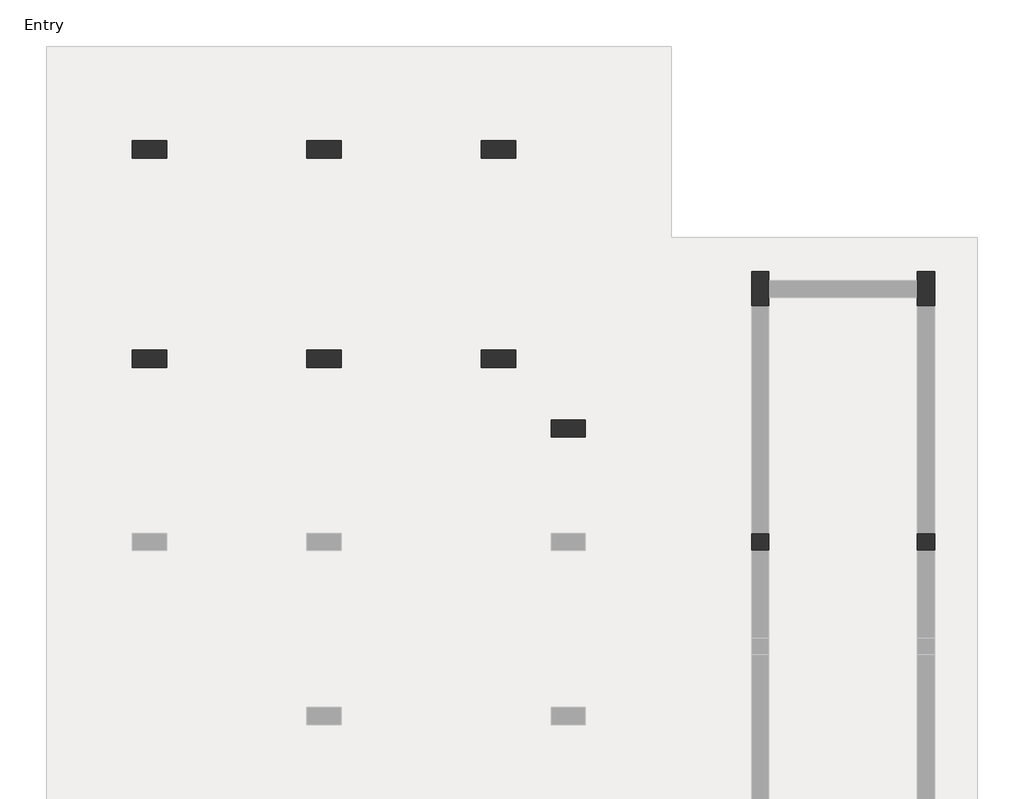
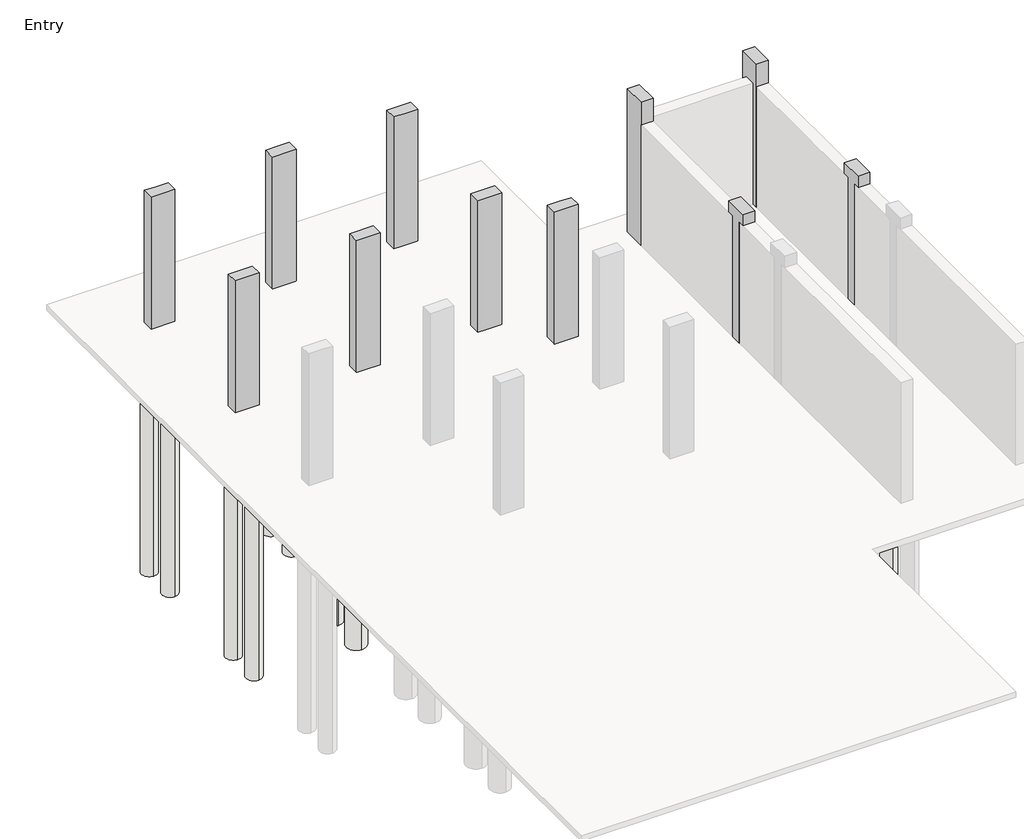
# One storey, part 3 of 3: 34 slabs, 11 columns, 4 footings.
"""IFC4 building model written with IfcOpenShell, lengths in millimetres."""

from ifc_helpers import new_model, si_unit, point, frame, frame_2d, origin, place, context, project, spatial, polyline, circle_curve, trimmed, segment, composite_curve, outline, extrude, faceted_brep, element, save

model = new_model("IFC4")

# Units and contexts
model_context = context("Model", 3, world=origin())
ifc_project = project(units=[si_unit("LENGTHUNIT", "METRE", prefix="MILLI")], contexts=[model_context])

# Site, building, storey
site = spatial("IfcSite", under=ifc_project)
building = spatial("IfcBuilding", under=site)
storey = spatial("IfcBuildingStorey", under=building, Name="Entry", Elevation=0.0)

# Columns
placement = place(None, origin())
element("IfcColumn", 1, ObjectType="M_Concrete-Rectangular-Column : 300 x 600mm", at=placement, inside=storey, context=model_context, shape_type="Brep", body=[
    faceted_brep([(-14312.7526929, 13307.19569, 0.0), (-13712.7526929, 13307.19569, 0.0), (-13712.7526929, 13007.19569, 0.0), (-14312.7526929, 13007.19569, 0.0), (-14312.7526929, 13307.19569, 3505.2), (-14012.7526929, 13307.19569, 3505.2), (-13712.7526929, 13307.19569, 3505.2), (-13712.7526929, 13307.19569, 2910.0), (-13712.7526929, 13007.19569, 3505.2), (-13712.7526929, 13007.19569, 2910.0), (-14012.7526929, 13007.19569, 3505.2), (-14162.7526929, 13007.19569, 3505.2), (-14312.7526929, 13007.19569, 3505.2)], [[[0, 1, 2, 3]], [[4, 5, 6, 7, 1, 0]], [[6, 8, 9, 2, 1, 7]], [[8, 10, 11, 12, 3, 2, 9]], [[12, 4, 0, 3]], [[4, 12, 11, 10, 8, 6, 5]]]),
])
element("IfcColumn", 2, ObjectType="M_Concrete-Rectangular-Column : 300 x 600mm", at=placement, inside=storey, context=model_context, shape_type="Brep", body=[
    faceted_brep([(-11264.7526929, 13307.19569, 0.0), (-10664.7526929, 13307.19569, 0.0), (-10664.7526929, 13007.19569, 0.0), (-11264.7526929, 13007.19569, 0.0), (-11264.7526929, 13307.19569, 3505.2), (-10964.7526929, 13307.19569, 3505.2), (-10664.7526929, 13307.19569, 3505.2), (-10664.7526929, 13307.19569, 2910.0), (-11264.7526929, 13307.19569, 2910.0), (-10664.7526929, 13007.19569, 3505.2), (-10664.7526929, 13007.19569, 2910.0), (-10814.7526929, 13007.19569, 3505.2), (-10964.7526929, 13007.19569, 3505.2), (-11264.7526929, 13007.19569, 3505.2), (-11264.7526929, 13007.19569, 2910.0)], [[[0, 1, 2, 3]], [[4, 5, 6, 7, 1, 0, 8]], [[6, 9, 10, 2, 1, 7]], [[9, 11, 12, 13, 14, 3, 2, 10]], [[13, 4, 8, 0, 3, 14]], [[4, 13, 12, 11, 9, 6, 5]]]),
])
element("IfcColumn", 3, ObjectType="M_Concrete-Rectangular-Column : 300 x 600mm", at=placement, inside=storey, context=model_context, shape_type="Brep", body=[
    faceted_brep([(-8216.7526929, 13307.19569, 0.0), (-7616.7526929, 13307.19569, 0.0), (-7616.7526929, 13007.19569, 0.0), (-8216.7526929, 13007.19569, 0.0), (-8216.7526929, 13307.19569, 3505.2), (-7916.7526929, 13307.19569, 3505.2), (-7616.7526929, 13307.19569, 3505.2), (-8216.7526929, 13307.19569, 2910.0), (-7616.7526929, 13007.19569, 3505.2), (-7766.7526929, 13007.19569, 3505.2), (-7916.7526929, 13007.19569, 3505.2), (-8216.7526929, 13007.19569, 3505.2), (-8216.7526929, 13007.19569, 2910.0)], [[[0, 1, 2, 3]], [[4, 5, 6, 1, 0, 7]], [[6, 8, 2, 1]], [[8, 9, 10, 11, 12, 3, 2]], [[11, 4, 7, 0, 3, 12]], [[4, 11, 10, 9, 8, 6, 5]]]),
])
element("IfcColumn", 4, ObjectType="M_Concrete-Rectangular-Column : 300 x 600mm", at=placement, inside=storey, context=model_context, shape_type="Brep", body=[
    faceted_brep([(-14312.7526929, 9649.59569, 0.0), (-13712.7526929, 9649.59569, 0.0), (-13712.7526929, 9349.59569, 0.0), (-14312.7526929, 9349.59569, 0.0), (-14312.7526929, 9649.59569, 3505.2), (-14162.7526929, 9649.59569, 3505.2), (-13862.7526929, 9649.59569, 3505.2), (-13712.7526929, 9649.59569, 3505.2), (-13712.7526929, 9649.59569, 2910.0), (-13712.7526929, 9349.59569, 3505.2), (-13712.7526929, 9349.59569, 2910.0), (-13862.7526929, 9349.59569, 3505.2), (-14162.7526929, 9349.59569, 3505.2), (-14312.7526929, 9349.59569, 3505.2)], [[[0, 1, 2, 3]], [[4, 5, 6, 7, 8, 1, 0]], [[7, 9, 10, 2, 1, 8]], [[9, 11, 12, 13, 3, 2, 10]], [[13, 4, 0, 3]], [[4, 13, 12, 11, 9, 7, 6, 5]]]),
])
element("IfcColumn", 5, ObjectType="M_Concrete-Rectangular-Column : 300 x 600mm", at=placement, inside=storey, context=model_context, shape_type="Brep", body=[
    faceted_brep([(-11264.7526929, 9649.59569, 0.0), (-10664.7526929, 9649.59569, 0.0), (-10664.7526929, 9349.59569, 0.0), (-11264.7526929, 9349.59569, 0.0), (-11264.7526929, 9649.59569, 3505.2), (-10664.7526929, 9649.59569, 3505.2), (-10664.7526929, 9649.59569, 2910.0), (-11264.7526929, 9649.59569, 2910.0), (-10664.7526929, 9349.59569, 3505.2), (-10664.7526929, 9349.59569, 2910.0), (-11264.7526929, 9349.59569, 3505.2), (-11264.7526929, 9349.59569, 2910.0)], [[[0, 1, 2, 3]], [[4, 5, 6, 1, 0, 7]], [[5, 8, 9, 2, 1, 6]], [[8, 10, 11, 3, 2, 9]], [[10, 4, 7, 0, 3, 11]], [[4, 10, 8, 5]]]),
])
element("IfcColumn", 6, ObjectType="M_Concrete-Rectangular-Column : 300 x 600mm", at=placement, inside=storey, context=model_context, shape_type="Brep", body=[
    faceted_brep([(-8216.7526929, 9649.59569, 0.0), (-7616.7526929, 9649.59569, 0.0), (-7616.7526929, 9349.59569, 0.0), (-8216.7526929, 9349.59569, 0.0), (-8216.7526929, 9649.59569, 3505.2), (-8066.7526929, 9649.59569, 3505.2), (-7766.7526929, 9649.59569, 3505.2), (-7616.7526929, 9649.59569, 3505.2), (-8216.7526929, 9649.59569, 2910.0), (-7616.7526929, 9349.59569, 3505.2), (-7766.7526929, 9349.59569, 3505.2), (-8066.7526929, 9349.59569, 3505.2), (-8216.7526929, 9349.59569, 3505.2), (-8216.7526929, 9349.59569, 2910.0)], [[[0, 1, 2, 3]], [[4, 5, 6, 7, 1, 0, 8]], [[7, 9, 2, 1]], [[9, 10, 11, 12, 13, 3, 2]], [[12, 4, 8, 0, 3, 13]], [[4, 12, 11, 10, 9, 7, 6, 5]]]),
])
element("IfcColumn", 7, ObjectType="M_Concrete-Rectangular-Column : 300 x 600mm", at=placement, inside=storey, context=model_context, shape_type="Brep", body=[
    faceted_brep([(-6997.5526929, 8430.39569, 0.0), (-6397.5526929, 8430.39569, 0.0), (-6397.5526929, 8130.39569, 0.0), (-6997.5526929, 8130.39569, 0.0), (-6997.5526929, 8430.39569, 3505.2), (-6697.5526929, 8430.39569, 3505.2), (-6397.5526929, 8430.39569, 3505.2), (-6997.5526929, 8430.39569, 2910.0), (-6397.5526929, 8130.39569, 3505.2), (-6547.5526929, 8130.39569, 3505.2), (-6697.5526929, 8130.39569, 3505.2), (-6997.5526929, 8130.39569, 3505.2), (-6997.5526929, 8130.39569, 2910.0)], [[[0, 1, 2, 3]], [[4, 5, 6, 1, 0, 7]], [[6, 8, 2, 1]], [[8, 9, 10, 11, 12, 3, 2]], [[11, 4, 7, 0, 3, 12]], [[4, 11, 10, 9, 8, 6, 5]]]),
])
element("IfcColumn", 8, ObjectType="M_Concrete-Rectangular-Column : 300 x 600mm", at=placement, inside=storey, context=model_context, shape_type="Brep", body=[
    faceted_brep([(-3194.7526929, 6149.19569, 0.0), (-3494.7526929, 6149.19569, 0.0), (-3494.7526929, 6449.19569, 0.0), (-3194.7526929, 6449.19569, 0.0), (-3494.7526929, 6149.19569, 2910.0), (-3494.7526929, 6149.19569, 3210.0), (-3494.7526929, 5999.19569, 3210.0), (-3494.7526929, 5999.19569, 3510.0), (-3494.7526929, 6149.19569, 3510.0), (-3494.7526929, 6449.19569, 3510.0), (-3494.7526929, 6599.19569, 3510.0), (-3494.7526929, 6599.19569, 3210.0), (-3494.7526929, 6449.19569, 3210.0), (-3494.7526929, 6449.19569, 2910.0), (-3194.7526929, 6599.19569, 3210.0), (-3194.7526929, 6599.19569, 3510.0), (-3194.7526929, 6149.19569, 3210.0), (-3194.7526929, 6149.19569, 2910.0), (-3194.7526929, 6449.19569, 2910.0), (-3194.7526929, 6449.19569, 3210.0), (-3194.7526929, 6449.19569, 3510.0), (-3194.7526929, 6149.19569, 3510.0), (-3194.7526929, 5999.19569, 3510.0), (-3194.7526929, 5999.19569, 3210.0)], [[[0, 1, 2, 3]], [[1, 4, 5, 6, 7, 8, 9, 10, 11, 12, 13, 2]], [[14, 11, 10, 15]], [[16, 17, 0, 3, 18, 19, 14, 15, 20, 21, 22, 23]], [[6, 23, 22, 7]], [[16, 5, 4, 1, 0, 17]], [[5, 16, 23, 6]], [[19, 12, 11, 14]], [[12, 19, 18, 3, 2, 13]], [[10, 9, 8, 7, 22, 21, 20, 15]]]),
])
element("IfcColumn", 9, ObjectType="M_Concrete-Rectangular-Column : 300 x 600mm", at=placement, inside=storey, context=model_context, shape_type="SweptSolid", body=[
    extrude(outline(polyline([(6449.19569, 3210.0), (6449.19569, 0.0), (6149.19569, 0.0), (6149.19569, 3210.0), (5999.19569, 3210.0), (5999.19569, 3510.0), (6599.19569, 3510.0), (6599.19569, 3210.0), (6449.19569, 3210.0)])), frame((-599.1526929, 0.0, 0.0), z_axis=(1.0, 0.0, 0.0), x_axis=(0.0, 1.0, 0.0)), (0.0, 0.0, 1.0), 300.0),
])
element("IfcColumn", 10, ObjectType="M_Concrete-Rectangular-Column : 300 x 600mm", at=placement, inside=storey, context=model_context, shape_type="Brep", body=[
    faceted_brep([(-3494.7526929, 10418.79569, 0.0), (-3494.7526929, 11018.79569, 0.0), (-3194.7526929, 11018.79569, 0.0), (-3194.7526929, 10868.79569, 0.0), (-3194.7526929, 10568.79569, 0.0), (-3194.7526929, 10418.79569, 0.0), (-3494.7526929, 10418.79569, 3810.0), (-3494.7526929, 11018.79569, 3810.0), (-3494.7526929, 10418.79569, 3210.0), (-3194.7526929, 11018.79569, 3810.0), (-3194.7526929, 10418.79569, 3810.0), (-3194.7526929, 10418.79569, 3210.0)], [[[0, 1, 2, 3, 4, 5]], [[6, 7, 1, 0, 8]], [[7, 9, 2, 1]], [[9, 10, 11, 5, 4, 3, 2]], [[10, 6, 8, 0, 5, 11]], [[6, 10, 9, 7]]]),
])
element("IfcColumn", 11, ObjectType="M_Concrete-Rectangular-Column : 300 x 600mm", at=placement, inside=storey, context=model_context, shape_type="Brep", body=[
    faceted_brep([(-599.1526929, 10418.79569, 0.0), (-599.1526929, 10568.79569, 0.0), (-599.1526929, 10868.79569, 0.0), (-599.1526929, 11018.79569, 0.0), (-299.1526929, 11018.79569, 0.0), (-299.1526929, 10418.79569, 0.0), (-599.1526929, 10418.79569, 3810.0), (-599.1526929, 11018.79569, 3810.0), (-599.1526929, 10418.79569, 3210.0), (-299.1526929, 11018.79569, 3810.0), (-299.1526929, 10418.79569, 3810.0), (-299.1526929, 10418.79569, 3210.0)], [[[0, 1, 2, 3, 4, 5]], [[6, 7, 3, 2, 1, 0, 8]], [[7, 9, 4, 3]], [[9, 10, 11, 5, 4]], [[10, 6, 8, 0, 5, 11]], [[6, 10, 9, 7]]]),
])

# Footings
element("IfcFooting", 12, ObjectType="Bearing Footing - 900 x 300", at=placement, inside=storey, context=model_context, shape_type="Brep", body=[
    faceted_brep([(-3194.7526929, 11168.79569, -300.0), (-3194.7526929, 11118.79569, -300.0), (-3194.7526929, 11118.79569, -150.0), (-3194.7526929, 11168.79569, -150.0), (-3194.7526929, 10318.79569, -300.0), (-3194.7526929, 10268.79569, -300.0), (-3194.7526929, 10268.79569, -150.0), (-3194.7526929, 10318.79569, -150.0), (-599.1526929, 11118.79569, -300.0), (-599.1526929, 11168.79569, -300.0), (-599.1526929, 11168.79569, -150.0), (-599.1526929, 11118.79569, -150.0), (-599.1526929, 10268.79569, -300.0), (-599.1526929, 10318.79569, -300.0), (-599.1526929, 10318.79569, -150.0), (-599.1526929, 10268.79569, -150.0), (-1199.1526929, 11118.79569, -300.0), (-1199.1526929, 10318.79569, -300.0), (-899.1526929, 10268.79569, -300.0), (-2894.7526929, 10268.79569, -300.0), (-2594.7526929, 10318.79569, -300.0), (-2594.7526929, 11118.79569, -300.0), (-899.1526929, 10268.79569, -150.0), (-2894.7526929, 10268.79569, -150.0), (-2594.7526929, 10318.79569, -150.0), (-2594.7526929, 11118.79569, -150.0), (-1199.1526929, 10318.79569, -150.0), (-1199.1526929, 11118.79569, -150.0)], [[[0, 1, 2, 3]], [[4, 5, 6, 7]], [[8, 9, 10, 11]], [[12, 13, 14, 15]], [[9, 0, 3, 10]], [[0, 9, 8, 16, 17, 13, 12, 18, 19, 5, 4, 20, 21, 1]], [[5, 19, 18, 12, 15, 22, 23, 6]], [[20, 4, 7, 24]], [[21, 20, 24, 25]], [[1, 21, 25, 2]], [[13, 17, 26, 14]], [[16, 8, 11, 27]], [[17, 16, 27, 26]], [[3, 2, 25, 24, 7, 6, 23, 22, 15, 14, 26, 27, 11, 10]]]),
])
element("IfcFooting", 13, ObjectType="Bearing Footing - 900 x 300", at=placement, inside=storey, context=model_context, shape_type="SweptSolid", body=[
    extrude(outline(polyline([(-3794.7526929, 6449.19569), (-3794.7526929, 10318.79569), (-3194.7526929, 10318.79569), (-3194.7526929, 10268.79569), (-2894.7526929, 10268.79569), (-2894.7526929, 6449.19569), (-2944.7526929, 6449.19569), (-2944.7526929, 7049.19569), (-3744.7526929, 7049.19569), (-3744.7526929, 6449.19569), (-3794.7526929, 6449.19569)])), frame((0.0, 0.0, -300.0), z_axis=(0.0, 0.0, 1.0), x_axis=(1.0, 0.0, 0.0)), (0.0, 0.0, 1.0), 150.0),
])
element("IfcFooting", 14, ObjectType="Bearing Footing - 900 x 300", at=placement, inside=storey, context=model_context, shape_type="SweptSolid", body=[
    extrude(outline(polyline([(0.8473071, 6149.19569), (0.8473071, 4620.39569), (-49.1526929, 4620.39569), (-49.1526929, 5220.39569), (-849.1526929, 5220.39569), (-849.1526929, 4620.39569), (-899.1526929, 4620.39569), (-899.1526929, 6149.19569), (-849.1526929, 6149.19569), (-849.1526929, 5549.19569), (-49.1526929, 5549.19569), (-49.1526929, 6149.19569), (0.8473071, 6149.19569)])), frame((0.0, 0.0, -300.0), z_axis=(0.0, 0.0, 1.0), x_axis=(1.0, 0.0, 0.0)), (0.0, 0.0, 1.0), 150.0),
])
element("IfcFooting", 15, ObjectType="Bearing Footing - 900 x 300", at=placement, inside=storey, context=model_context, shape_type="SweptSolid", body=[
    extrude(outline(polyline([(0.8473071, 10318.79569), (0.8473071, 6449.19569), (-49.1526929, 6449.19569), (-49.1526929, 7049.19569), (-849.1526929, 7049.19569), (-849.1526929, 6449.19569), (-899.1526929, 6449.19569), (-899.1526929, 10268.79569), (-599.1526929, 10268.79569), (-599.1526929, 10318.79569), (0.8473071, 10318.79569)])), frame((0.0, 0.0, -300.0), z_axis=(0.0, 0.0, 1.0), x_axis=(1.0, 0.0, 0.0)), (0.0, 0.0, 1.0), 150.0),
])

# Slabs
element("IfcSlab", 16, ObjectType="M_Pile Cap-2 Pile : 800 x 1500 x 900mm", at=placement, inside=storey, context=model_context, shape_type="SweptSolid", body=[
    extrude(outline(polyline([(-14412.7526929, 13907.19569), (-13612.7526929, 13907.19569), (-13612.7526929, 12407.19569), (-14412.7526929, 12407.19569), (-14412.7526929, 13907.19569)])), frame((0.0, 0.0, -900.0), z_axis=(0.0, 0.0, 1.0), x_axis=(1.0, 0.0, 0.0)), (0.0, 0.0, 1.0), 750.0),
])
element("IfcSlab", 17, ObjectType="M_Pile Cap-2 Pile : 800 x 1500 x 900mm", at=placement, inside=storey, context=model_context, shape_type="SweptSolid", body=[
    extrude(outline(polyline([(-11364.7526929, 13907.19569), (-10564.7526929, 13907.19569), (-10564.7526929, 12407.19569), (-11364.7526929, 12407.19569), (-11364.7526929, 13907.19569)])), frame((0.0, 0.0, -900.0), z_axis=(0.0, 0.0, 1.0), x_axis=(1.0, 0.0, 0.0)), (0.0, 0.0, 1.0), 750.0),
])
element("IfcSlab", 18, ObjectType="M_Pile Cap-2 Pile : 800 x 1500 x 900mm", at=placement, inside=storey, context=model_context, shape_type="SweptSolid", body=[
    extrude(outline(polyline([(-8316.7526929, 13907.19569), (-7516.7526929, 13907.19569), (-7516.7526929, 12407.19569), (-8316.7526929, 12407.19569), (-8316.7526929, 13907.19569)])), frame((0.0, 0.0, -900.0), z_axis=(0.0, 0.0, 1.0), x_axis=(1.0, 0.0, 0.0)), (0.0, 0.0, 1.0), 750.0),
])
element("IfcSlab", 19, ObjectType="M_Pile Cap-2 Pile : 800 x 1500 x 900mm", at=placement, inside=storey, context=model_context, shape_type="SweptSolid", body=[
    extrude(outline(polyline([(-14412.7526929, 10249.59569), (-13612.7526929, 10249.59569), (-13612.7526929, 8749.59569), (-14412.7526929, 8749.59569), (-14412.7526929, 10249.59569)])), frame((0.0, 0.0, -900.0), z_axis=(0.0, 0.0, 1.0), x_axis=(1.0, 0.0, 0.0)), (0.0, 0.0, 1.0), 750.0),
])
element("IfcSlab", 20, ObjectType="M_Pile Cap-2 Pile : 800 x 1500 x 900mm", at=placement, inside=storey, context=model_context, shape_type="SweptSolid", body=[
    extrude(outline(polyline([(-8316.7526929, 10249.59569), (-7516.7526929, 10249.59569), (-7516.7526929, 8749.59569), (-8316.7526929, 8749.59569), (-8316.7526929, 10249.59569)])), frame((0.0, 0.0, -900.0), z_axis=(0.0, 0.0, 1.0), x_axis=(1.0, 0.0, 0.0)), (0.0, 0.0, 1.0), 750.0),
])
element("IfcSlab", 21, ObjectType="M_Pile Cap-2 Pile : 800 x 1500 x 900mm", at=placement, inside=storey, context=model_context, shape_type="Brep", body=[
    faceted_brep([(-4094.7526929, 10318.79569, -900.0), (-4094.7526929, 11118.79569, -900.0), (-2594.7526929, 11118.79569, -900.0), (-2594.7526929, 10318.79569, -900.0), (-2594.7526929, 10318.79569, -300.0), (-2594.7526929, 10318.79569, -150.0), (-3194.7526929, 10318.79569, -150.0), (-3794.7526929, 10318.79569, -150.0), (-4094.7526929, 10318.79569, -150.0), (-2594.7526929, 11118.79569, -300.0), (-2594.7526929, 11118.79569, -150.0), (-4094.7526929, 11118.79569, -150.0), (-3194.7526929, 11118.79569, -150.0)], [[[0, 1, 2, 3]], [[0, 3, 4, 5, 6, 7, 8]], [[3, 2, 9, 10, 5, 4]], [[2, 1, 11, 12, 10, 9]], [[1, 0, 8, 11]], [[8, 7, 6, 5, 10, 12, 11]]]),
])
element("IfcSlab", 22, ObjectType="M_Pile Cap-2 Pile : 800 x 1500 x 900mm", at=placement, inside=storey, context=model_context, shape_type="Brep", body=[
    faceted_brep([(-1199.1526929, 10318.79569, -900.0), (-1199.1526929, 11118.79569, -900.0), (300.8473071, 11118.79569, -900.0), (300.8473071, 10318.79569, -900.0), (300.8473071, 10318.79569, -150.0), (0.8473071, 10318.79569, -150.0), (-599.1526929, 10318.79569, -150.0), (-1199.1526929, 10318.79569, -150.0), (-1199.1526929, 10318.79569, -300.0), (300.8473071, 11118.79569, -150.0), (-1199.1526929, 11118.79569, -300.0), (-1199.1526929, 11118.79569, -150.0), (-599.1526929, 11118.79569, -150.0)], [[[0, 1, 2, 3]], [[0, 3, 4, 5, 6, 7, 8]], [[3, 2, 9, 4]], [[2, 1, 10, 11, 12, 9]], [[1, 0, 8, 7, 11, 10]], [[7, 6, 5, 4, 9, 12, 11]]]),
])
element("IfcSlab", 23, ObjectType="M_Pile Cap-2 Pile : 800 x 1500 x 900mm", at=placement, inside=storey, context=model_context, shape_type="Brep", body=[
    faceted_brep([(-3744.7526929, 7049.19569, -900.0), (-2944.7526929, 7049.19569, -900.0), (-2944.7526929, 5549.19569, -900.0), (-3744.7526929, 5549.19569, -900.0), (-3744.7526929, 5549.19569, -300.0), (-3744.7526929, 5549.19569, -150.0), (-3744.7526929, 6149.19569, -150.0), (-3744.7526929, 6449.19569, -150.0), (-3744.7526929, 7049.19569, -150.0), (-3744.7526929, 7049.19569, -300.0), (-2944.7526929, 5549.19569, -300.0), (-2944.7526929, 5549.19569, -150.0), (-2944.7526929, 7049.19569, -300.0), (-2944.7526929, 7049.19569, -150.0), (-2944.7526929, 6449.19569, -150.0), (-2944.7526929, 6149.19569, -150.0)], [[[0, 1, 2, 3]], [[0, 3, 4, 5, 6, 7, 8, 9]], [[3, 2, 10, 11, 5, 4]], [[2, 1, 12, 13, 14, 15, 11, 10]], [[1, 0, 9, 8, 13, 12]], [[8, 7, 6, 5, 11, 15, 14, 13]]]),
])
element("IfcSlab", 24, ObjectType="M_Pile Cap-2 Pile : 800 x 1500 x 900mm", at=placement, inside=storey, context=model_context, shape_type="Brep", body=[
    faceted_brep([(-849.1526929, 7049.19569, -900.0), (-49.1526929, 7049.19569, -900.0), (-49.1526929, 5549.19569, -900.0), (-849.1526929, 5549.19569, -900.0), (-849.1526929, 5549.19569, -300.0), (-849.1526929, 5549.19569, -150.0), (-849.1526929, 6149.19569, -150.0), (-849.1526929, 6449.19569, -150.0), (-849.1526929, 7049.19569, -150.0), (-849.1526929, 7049.19569, -300.0), (-49.1526929, 5549.19569, -300.0), (-49.1526929, 5549.19569, -150.0), (-49.1526929, 7049.19569, -300.0), (-49.1526929, 7049.19569, -150.0), (-49.1526929, 6449.19569, -150.0), (-49.1526929, 6149.19569, -150.0)], [[[0, 1, 2, 3]], [[0, 3, 4, 5, 6, 7, 8, 9]], [[3, 2, 10, 11, 5, 4]], [[2, 1, 12, 13, 14, 15, 11, 10]], [[1, 0, 9, 8, 13, 12]], [[8, 7, 6, 5, 11, 15, 14, 13]]]),
])
element("IfcSlab", 25, ObjectType="M_Pile Cap-2 Pile : 800 x 1500 x 900mm", at=placement, inside=storey, context=model_context, shape_type="SweptSolid", body=[
    extrude(outline(polyline([(-7097.5526929, 9030.39569), (-6297.5526929, 9030.39569), (-6297.5526929, 7530.39569), (-7097.5526929, 7530.39569), (-7097.5526929, 9030.39569)])), frame((0.0, 0.0, -900.0), z_axis=(0.0, 0.0, 1.0), x_axis=(1.0, 0.0, 0.0)), (0.0, 0.0, 1.0), 750.0),
])
element("IfcSlab", 26, ObjectType="M_Pile Cap-4 Pile : 1800 x 1800 x 900mm", at=placement, inside=storey, context=model_context, shape_type="SweptSolid", body=[
    extrude(outline(polyline([(-11864.7526929, 10399.59569), (-10064.7526929, 10399.59569), (-10064.7526929, 8599.59569), (-11864.7526929, 8599.59569), (-11864.7526929, 10399.59569)])), frame((0.0, 0.0, -900.0), z_axis=(0.0, 0.0, 1.0), x_axis=(1.0, 0.0, 0.0)), (0.0, 0.0, 1.0), 750.0),
])
element("IfcSlab", 27, ObjectType="M_Pile-Steel Pipe : 400mm Diameter", at=placement, inside=storey, context=model_context, shape_type="SweptSolid", body=[
    extrude(outline(composite_curve([segment(trimmed(circle_curve(frame_2d((-14012.7526929, 12707.19569)), 200.0), [point((-14012.7526929, 12507.19569))], [point((-14012.7526929, 12907.19569))], False, "CARTESIAN"), True, "CONTINUOUS"), segment(trimmed(circle_curve(frame_2d((-14012.7526929, 12707.19569)), 200.0), [point((-14012.7526929, 12907.19569))], [point((-14012.7526929, 12507.19569))], False, "CARTESIAN"), True, "CONTINUOUS")], self_intersect=False)), frame((0.0, 0.0, -6900.0), z_axis=(0.0, 0.0, 1.0), x_axis=(1.0, 0.0, 0.0)), (0.0, 0.0, 1.0), 6000.0),
])
element("IfcSlab", 28, ObjectType="M_Pile-Steel Pipe : 400mm Diameter", at=placement, inside=storey, context=model_context, shape_type="SweptSolid", body=[
    extrude(outline(composite_curve([segment(trimmed(circle_curve(frame_2d((-14012.7526929, 13607.19569)), 200.0), [point((-14012.7526929, 13407.19569))], [point((-14012.7526929, 13807.19569))], False, "CARTESIAN"), True, "CONTINUOUS"), segment(trimmed(circle_curve(frame_2d((-14012.7526929, 13607.19569)), 200.0), [point((-14012.7526929, 13807.19569))], [point((-14012.7526929, 13407.19569))], False, "CARTESIAN"), True, "CONTINUOUS")], self_intersect=False)), frame((0.0, 0.0, -6900.0), z_axis=(0.0, 0.0, 1.0), x_axis=(1.0, 0.0, 0.0)), (0.0, 0.0, 1.0), 6000.0),
])
element("IfcSlab", 29, ObjectType="M_Pile-Steel Pipe : 400mm Diameter", at=placement, inside=storey, context=model_context, shape_type="SweptSolid", body=[
    extrude(outline(composite_curve([segment(trimmed(circle_curve(frame_2d((-10964.7526929, 12707.19569)), 200.0), [point((-10964.7526929, 12507.19569))], [point((-10964.7526929, 12907.19569))], False, "CARTESIAN"), True, "CONTINUOUS"), segment(trimmed(circle_curve(frame_2d((-10964.7526929, 12707.19569)), 200.0), [point((-10964.7526929, 12907.19569))], [point((-10964.7526929, 12507.19569))], False, "CARTESIAN"), True, "CONTINUOUS")], self_intersect=False)), frame((0.0, 0.0, -6900.0), z_axis=(0.0, 0.0, 1.0), x_axis=(1.0, 0.0, 0.0)), (0.0, 0.0, 1.0), 6000.0),
])
element("IfcSlab", 30, ObjectType="M_Pile-Steel Pipe : 400mm Diameter", at=placement, inside=storey, context=model_context, shape_type="SweptSolid", body=[
    extrude(outline(composite_curve([segment(trimmed(circle_curve(frame_2d((-10964.7526929, 13607.19569)), 200.0), [point((-10964.7526929, 13407.19569))], [point((-10964.7526929, 13807.19569))], False, "CARTESIAN"), True, "CONTINUOUS"), segment(trimmed(circle_curve(frame_2d((-10964.7526929, 13607.19569)), 200.0), [point((-10964.7526929, 13807.19569))], [point((-10964.7526929, 13407.19569))], False, "CARTESIAN"), True, "CONTINUOUS")], self_intersect=False)), frame((0.0, 0.0, -6900.0), z_axis=(0.0, 0.0, 1.0), x_axis=(1.0, 0.0, 0.0)), (0.0, 0.0, 1.0), 6000.0),
])
element("IfcSlab", 31, ObjectType="M_Pile-Steel Pipe : 400mm Diameter", at=placement, inside=storey, context=model_context, shape_type="SweptSolid", body=[
    extrude(outline(composite_curve([segment(trimmed(circle_curve(frame_2d((-7916.7526929, 12707.19569)), 200.0), [point((-7916.7526929, 12507.19569))], [point((-7916.7526929, 12907.19569))], False, "CARTESIAN"), True, "CONTINUOUS"), segment(trimmed(circle_curve(frame_2d((-7916.7526929, 12707.19569)), 200.0), [point((-7916.7526929, 12907.19569))], [point((-7916.7526929, 12507.19569))], False, "CARTESIAN"), True, "CONTINUOUS")], self_intersect=False)), frame((0.0, 0.0, -6900.0), z_axis=(0.0, 0.0, 1.0), x_axis=(1.0, 0.0, 0.0)), (0.0, 0.0, 1.0), 6000.0),
])
element("IfcSlab", 32, ObjectType="M_Pile-Steel Pipe : 400mm Diameter", at=placement, inside=storey, context=model_context, shape_type="SweptSolid", body=[
    extrude(outline(composite_curve([segment(trimmed(circle_curve(frame_2d((-7916.7526929, 13607.19569)), 200.0), [point((-7916.7526929, 13407.19569))], [point((-7916.7526929, 13807.19569))], False, "CARTESIAN"), True, "CONTINUOUS"), segment(trimmed(circle_curve(frame_2d((-7916.7526929, 13607.19569)), 200.0), [point((-7916.7526929, 13807.19569))], [point((-7916.7526929, 13407.19569))], False, "CARTESIAN"), True, "CONTINUOUS")], self_intersect=False)), frame((0.0, 0.0, -6900.0), z_axis=(0.0, 0.0, 1.0), x_axis=(1.0, 0.0, 0.0)), (0.0, 0.0, 1.0), 6000.0),
])
element("IfcSlab", 33, ObjectType="M_Pile-Steel Pipe : 400mm Diameter", at=placement, inside=storey, context=model_context, shape_type="SweptSolid", body=[
    extrude(outline(composite_curve([segment(trimmed(circle_curve(frame_2d((-14012.7526929, 9049.59569)), 200.0), [point((-14012.7526929, 8849.59569))], [point((-14012.7526929, 9249.59569))], False, "CARTESIAN"), True, "CONTINUOUS"), segment(trimmed(circle_curve(frame_2d((-14012.7526929, 9049.59569)), 200.0), [point((-14012.7526929, 9249.59569))], [point((-14012.7526929, 8849.59569))], False, "CARTESIAN"), True, "CONTINUOUS")], self_intersect=False)), frame((0.0, 0.0, -6900.0), z_axis=(0.0, 0.0, 1.0), x_axis=(1.0, 0.0, 0.0)), (0.0, 0.0, 1.0), 6000.0),
])
element("IfcSlab", 34, ObjectType="M_Pile-Steel Pipe : 400mm Diameter", at=placement, inside=storey, context=model_context, shape_type="SweptSolid", body=[
    extrude(outline(composite_curve([segment(trimmed(circle_curve(frame_2d((-14012.7526929, 9949.59569)), 200.0), [point((-14012.7526929, 9749.59569))], [point((-14012.7526929, 10149.59569))], False, "CARTESIAN"), True, "CONTINUOUS"), segment(trimmed(circle_curve(frame_2d((-14012.7526929, 9949.59569)), 200.0), [point((-14012.7526929, 10149.59569))], [point((-14012.7526929, 9749.59569))], False, "CARTESIAN"), True, "CONTINUOUS")], self_intersect=False)), frame((0.0, 0.0, -6900.0), z_axis=(0.0, 0.0, 1.0), x_axis=(1.0, 0.0, 0.0)), (0.0, 0.0, 1.0), 6000.0),
])
element("IfcSlab", 35, ObjectType="M_Pile-Steel Pipe : 400mm Diameter", at=placement, inside=storey, context=model_context, shape_type="SweptSolid", body=[
    extrude(outline(composite_curve([segment(trimmed(circle_curve(frame_2d((-7916.7526929, 9049.59569)), 200.0), [point((-7916.7526929, 8849.59569))], [point((-7916.7526929, 9249.59569))], False, "CARTESIAN"), True, "CONTINUOUS"), segment(trimmed(circle_curve(frame_2d((-7916.7526929, 9049.59569)), 200.0), [point((-7916.7526929, 9249.59569))], [point((-7916.7526929, 8849.59569))], False, "CARTESIAN"), True, "CONTINUOUS")], self_intersect=False)), frame((0.0, 0.0, -6900.0), z_axis=(0.0, 0.0, 1.0), x_axis=(1.0, 0.0, 0.0)), (0.0, 0.0, 1.0), 6000.0),
])
element("IfcSlab", 36, ObjectType="M_Pile-Steel Pipe : 400mm Diameter", at=placement, inside=storey, context=model_context, shape_type="SweptSolid", body=[
    extrude(outline(composite_curve([segment(trimmed(circle_curve(frame_2d((-7916.7526929, 9949.59569)), 200.0), [point((-7916.7526929, 9749.59569))], [point((-7916.7526929, 10149.59569))], False, "CARTESIAN"), True, "CONTINUOUS"), segment(trimmed(circle_curve(frame_2d((-7916.7526929, 9949.59569)), 200.0), [point((-7916.7526929, 10149.59569))], [point((-7916.7526929, 9749.59569))], False, "CARTESIAN"), True, "CONTINUOUS")], self_intersect=False)), frame((0.0, 0.0, -6900.0), z_axis=(0.0, 0.0, 1.0), x_axis=(1.0, 0.0, 0.0)), (0.0, 0.0, 1.0), 6000.0),
])
element("IfcSlab", 37, ObjectType="M_Pile-Steel Pipe : 400mm Diameter", at=placement, inside=storey, context=model_context, shape_type="SweptSolid", body=[
    extrude(outline(composite_curve([segment(trimmed(circle_curve(frame_2d((-2894.7526929, 10718.79569)), 200.0), [point((-2694.7526929, 10718.79569))], [point((-3094.7526929, 10718.79569))], False, "CARTESIAN"), True, "CONTINUOUS"), segment(trimmed(circle_curve(frame_2d((-2894.7526929, 10718.79569)), 200.0), [point((-3094.7526929, 10718.79569))], [point((-2694.7526929, 10718.79569))], False, "CARTESIAN"), True, "CONTINUOUS")], self_intersect=False)), frame((0.0, 0.0, -6900.0), z_axis=(0.0, 0.0, 1.0), x_axis=(1.0, 0.0, 0.0)), (0.0, 0.0, 1.0), 6000.0),
])
element("IfcSlab", 38, ObjectType="M_Pile-Steel Pipe : 400mm Diameter", at=placement, inside=storey, context=model_context, shape_type="SweptSolid", body=[
    extrude(outline(composite_curve([segment(trimmed(circle_curve(frame_2d((-3794.7526929, 10718.79569)), 200.0), [point((-3594.7526929, 10718.79569))], [point((-3994.7526929, 10718.79569))], False, "CARTESIAN"), True, "CONTINUOUS"), segment(trimmed(circle_curve(frame_2d((-3794.7526929, 10718.79569)), 200.0), [point((-3994.7526929, 10718.79569))], [point((-3594.7526929, 10718.79569))], False, "CARTESIAN"), True, "CONTINUOUS")], self_intersect=False)), frame((0.0, 0.0, -6900.0), z_axis=(0.0, 0.0, 1.0), x_axis=(1.0, 0.0, 0.0)), (0.0, 0.0, 1.0), 6000.0),
])
element("IfcSlab", 39, ObjectType="M_Pile-Steel Pipe : 400mm Diameter", at=placement, inside=storey, context=model_context, shape_type="SweptSolid", body=[
    extrude(outline(composite_curve([segment(trimmed(circle_curve(frame_2d((0.8473071, 10718.79569)), 200.0), [point((200.8473071, 10718.79569))], [point((-199.1526929, 10718.79569))], False, "CARTESIAN"), True, "CONTINUOUS"), segment(trimmed(circle_curve(frame_2d((0.8473071, 10718.79569)), 200.0), [point((-199.1526929, 10718.79569))], [point((200.8473071, 10718.79569))], False, "CARTESIAN"), True, "CONTINUOUS")], self_intersect=False)), frame((0.0, 0.0, -6900.0), z_axis=(0.0, 0.0, 1.0), x_axis=(1.0, 0.0, 0.0)), (0.0, 0.0, 1.0), 6000.0),
])
element("IfcSlab", 40, ObjectType="M_Pile-Steel Pipe : 400mm Diameter", at=placement, inside=storey, context=model_context, shape_type="SweptSolid", body=[
    extrude(outline(composite_curve([segment(trimmed(circle_curve(frame_2d((-899.1526929, 10718.79569)), 200.0), [point((-699.1526929, 10718.79569))], [point((-1099.1526929, 10718.79569))], False, "CARTESIAN"), True, "CONTINUOUS"), segment(trimmed(circle_curve(frame_2d((-899.1526929, 10718.79569)), 200.0), [point((-1099.1526929, 10718.79569))], [point((-699.1526929, 10718.79569))], False, "CARTESIAN"), True, "CONTINUOUS")], self_intersect=False)), frame((0.0, 0.0, -6900.0), z_axis=(0.0, 0.0, 1.0), x_axis=(1.0, 0.0, 0.0)), (0.0, 0.0, 1.0), 6000.0),
])
element("IfcSlab", 41, ObjectType="M_Pile-Steel Pipe : 400mm Diameter", at=placement, inside=storey, context=model_context, shape_type="SweptSolid", body=[
    extrude(outline(composite_curve([segment(trimmed(circle_curve(frame_2d((-3344.7526929, 6749.19569)), 200.0), [point((-3344.7526929, 6549.19569))], [point((-3344.7526929, 6949.19569))], False, "CARTESIAN"), True, "CONTINUOUS"), segment(trimmed(circle_curve(frame_2d((-3344.7526929, 6749.19569)), 200.0), [point((-3344.7526929, 6949.19569))], [point((-3344.7526929, 6549.19569))], False, "CARTESIAN"), True, "CONTINUOUS")], self_intersect=False)), frame((0.0, 0.0, -6900.0), z_axis=(0.0, 0.0, 1.0), x_axis=(1.0, 0.0, 0.0)), (0.0, 0.0, 1.0), 6000.0),
])
element("IfcSlab", 42, ObjectType="M_Pile-Steel Pipe : 400mm Diameter", at=placement, inside=storey, context=model_context, shape_type="SweptSolid", body=[
    extrude(outline(composite_curve([segment(trimmed(circle_curve(frame_2d((-449.1526929, 5849.19569)), 200.0), [point((-449.1526929, 5649.19569))], [point((-449.1526929, 6049.19569))], False, "CARTESIAN"), True, "CONTINUOUS"), segment(trimmed(circle_curve(frame_2d((-449.1526929, 5849.19569)), 200.0), [point((-449.1526929, 6049.19569))], [point((-449.1526929, 5649.19569))], False, "CARTESIAN"), True, "CONTINUOUS")], self_intersect=False)), frame((0.0, 0.0, -6900.0), z_axis=(0.0, 0.0, 1.0), x_axis=(1.0, 0.0, 0.0)), (0.0, 0.0, 1.0), 6000.0),
])
element("IfcSlab", 43, ObjectType="M_Pile-Steel Pipe : 400mm Diameter", at=placement, inside=storey, context=model_context, shape_type="SweptSolid", body=[
    extrude(outline(composite_curve([segment(trimmed(circle_curve(frame_2d((-449.1526929, 6749.19569)), 200.0), [point((-449.1526929, 6549.19569))], [point((-449.1526929, 6949.19569))], False, "CARTESIAN"), True, "CONTINUOUS"), segment(trimmed(circle_curve(frame_2d((-449.1526929, 6749.19569)), 200.0), [point((-449.1526929, 6949.19569))], [point((-449.1526929, 6549.19569))], False, "CARTESIAN"), True, "CONTINUOUS")], self_intersect=False)), frame((0.0, 0.0, -6900.0), z_axis=(0.0, 0.0, 1.0), x_axis=(1.0, 0.0, 0.0)), (0.0, 0.0, 1.0), 6000.0),
])
element("IfcSlab", 44, ObjectType="M_Pile-Steel Pipe : 400mm Diameter", at=placement, inside=storey, context=model_context, shape_type="SweptSolid", body=[
    extrude(outline(composite_curve([segment(trimmed(circle_curve(frame_2d((-449.1526929, 4920.39569)), 200.0), [point((-449.1526929, 4720.39569))], [point((-449.1526929, 5120.39569))], False, "CARTESIAN"), True, "CONTINUOUS"), segment(trimmed(circle_curve(frame_2d((-449.1526929, 4920.39569)), 200.0), [point((-449.1526929, 5120.39569))], [point((-449.1526929, 4720.39569))], False, "CARTESIAN"), True, "CONTINUOUS")], self_intersect=False)), frame((0.0, 0.0, -6900.0), z_axis=(0.0, 0.0, 1.0), x_axis=(1.0, 0.0, 0.0)), (0.0, 0.0, 1.0), 6000.0),
])
element("IfcSlab", 45, ObjectType="M_Pile-Steel Pipe : 400mm Diameter", at=placement, inside=storey, context=model_context, shape_type="SweptSolid", body=[
    extrude(outline(composite_curve([segment(trimmed(circle_curve(frame_2d((-6697.5526929, 8730.39569)), 200.0), [point((-6697.5526929, 8530.39569))], [point((-6697.5526929, 8930.39569))], False, "CARTESIAN"), True, "CONTINUOUS"), segment(trimmed(circle_curve(frame_2d((-6697.5526929, 8730.39569)), 200.0), [point((-6697.5526929, 8930.39569))], [point((-6697.5526929, 8530.39569))], False, "CARTESIAN"), True, "CONTINUOUS")], self_intersect=False)), frame((0.0, 0.0, -6900.0), z_axis=(0.0, 0.0, 1.0), x_axis=(1.0, 0.0, 0.0)), (0.0, 0.0, 1.0), 6000.0),
])
element("IfcSlab", 46, ObjectType="M_Pile-Steel Pipe : 500mm Diameter", at=placement, inside=storey, context=model_context, shape_type="SweptSolid", body=[
    extrude(outline(composite_curve([segment(trimmed(circle_curve(frame_2d((-10444.7526929, 8979.59569)), 250.0), [point((-10444.7526929, 8729.59569))], [point((-10444.7526929, 9229.59569))], False, "CARTESIAN"), True, "CONTINUOUS"), segment(trimmed(circle_curve(frame_2d((-10444.7526929, 8979.59569)), 250.0), [point((-10444.7526929, 9229.59569))], [point((-10444.7526929, 8729.59569))], False, "CARTESIAN"), True, "CONTINUOUS")], self_intersect=False)), frame((0.0, 0.0, -6900.0), z_axis=(0.0, 0.0, 1.0), x_axis=(1.0, 0.0, 0.0)), (0.0, 0.0, 1.0), 6000.0),
])
element("IfcSlab", 47, ObjectType="M_Pile-Steel Pipe : 500mm Diameter", at=placement, inside=storey, context=model_context, shape_type="SweptSolid", body=[
    extrude(outline(composite_curve([segment(trimmed(circle_curve(frame_2d((-10444.7526929, 10019.59569)), 250.0), [point((-10444.7526929, 9769.59569))], [point((-10444.7526929, 10269.59569))], False, "CARTESIAN"), True, "CONTINUOUS"), segment(trimmed(circle_curve(frame_2d((-10444.7526929, 10019.59569)), 250.0), [point((-10444.7526929, 10269.59569))], [point((-10444.7526929, 9769.59569))], False, "CARTESIAN"), True, "CONTINUOUS")], self_intersect=False)), frame((0.0, 0.0, -6900.0), z_axis=(0.0, 0.0, 1.0), x_axis=(1.0, 0.0, 0.0)), (0.0, 0.0, 1.0), 6000.0),
])
element("IfcSlab", 48, ObjectType="M_Pile-Steel Pipe : 500mm Diameter", at=placement, inside=storey, context=model_context, shape_type="SweptSolid", body=[
    extrude(outline(composite_curve([segment(trimmed(circle_curve(frame_2d((-11484.7526929, 10019.59569)), 250.0), [point((-11484.7526929, 9769.59569))], [point((-11484.7526929, 10269.59569))], False, "CARTESIAN"), True, "CONTINUOUS"), segment(trimmed(circle_curve(frame_2d((-11484.7526929, 10019.59569)), 250.0), [point((-11484.7526929, 10269.59569))], [point((-11484.7526929, 9769.59569))], False, "CARTESIAN"), True, "CONTINUOUS")], self_intersect=False)), frame((0.0, 0.0, -6900.0), z_axis=(0.0, 0.0, 1.0), x_axis=(1.0, 0.0, 0.0)), (0.0, 0.0, 1.0), 6000.0),
])
element("IfcSlab", 49, ObjectType="M_Pile-Steel Pipe : 500mm Diameter", at=placement, inside=storey, context=model_context, shape_type="SweptSolid", body=[
    extrude(outline(composite_curve([segment(trimmed(circle_curve(frame_2d((-11484.7526929, 8979.59569)), 250.0), [point((-11484.7526929, 8729.59569))], [point((-11484.7526929, 9229.59569))], False, "CARTESIAN"), True, "CONTINUOUS"), segment(trimmed(circle_curve(frame_2d((-11484.7526929, 8979.59569)), 250.0), [point((-11484.7526929, 9229.59569))], [point((-11484.7526929, 8729.59569))], False, "CARTESIAN"), True, "CONTINUOUS")], self_intersect=False)), frame((0.0, 0.0, -6900.0), z_axis=(0.0, 0.0, 1.0), x_axis=(1.0, 0.0, 0.0)), (0.0, 0.0, 1.0), 6000.0),
])

save(model, "model.ifc")
